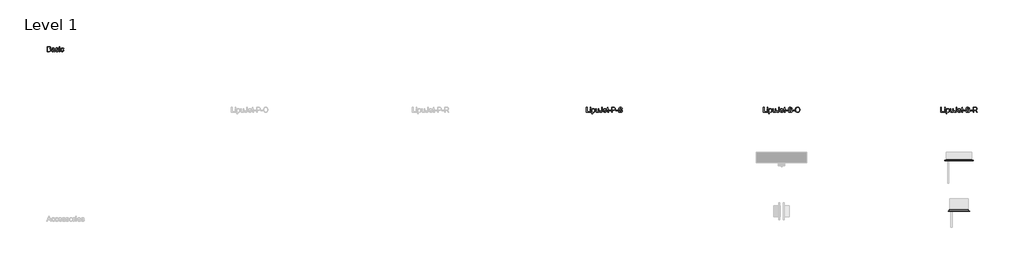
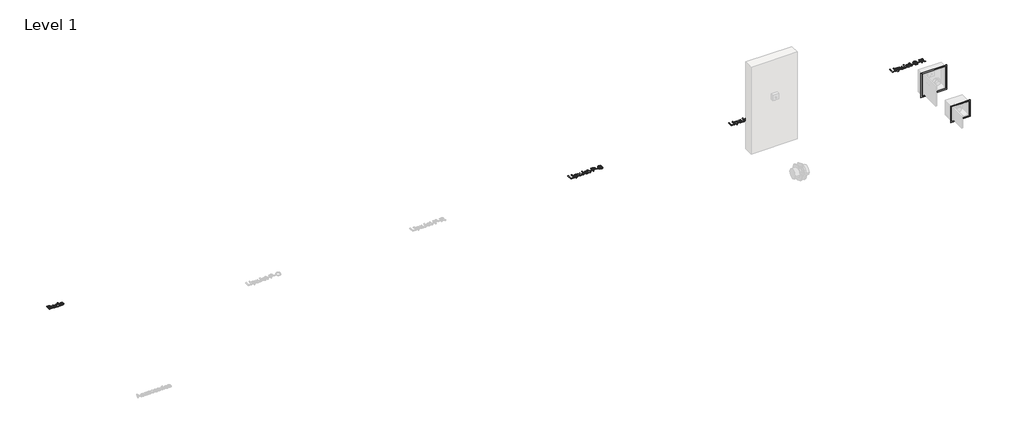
# One storey, part 2 of 3: 4 proxies, 2 furniture elements.
"""IFC4 building model written with IfcOpenShell, lengths in millimetres."""

import ifcopenshell
import ifcopenshell.guid

model = None  # the IFC model being written
_history = None  # IfcOwnerHistory: only IFC2X3 demands one
_inside = {}  # id of a spatial element -> (the spatial element, [elements in it])
_under = {}  # id of a project, library or spatial element -> (it, [spatial elements below it])
_declared = {}  # id of a project -> (the project, [libraries it declares])
_typed = {}  # id of a type object -> (the type object, [elements of that type])
_made_of = {}  # id of a material, layer set ... -> (it, [elements and type objects made of it])


def new_model(schema):
    """Start an empty IFC model of exactly this schema.

    Asked for "IFC4X3", IfcOpenShell would pick the latest addendum, in which some entities
    have other attributes; the version numbers below select the first issue.
    IFC2X3 requires an IfcOwnerHistory on every rooted entity: one is made here for all.
    """
    global model, _history
    if schema == "IFC4X3":
        model = ifcopenshell.file(schema_version=(4, 3, 0, 0))
    else:
        model = ifcopenshell.file(schema=schema)
    _inside.clear()
    _under.clear()
    _declared.clear()
    _typed.clear()
    _made_of.clear()
    _history = None
    if model.schema == "IFC2X3":
        org = make("IfcOrganization", Name="unknown")
        user = make(
            "IfcPersonAndOrganization",
            ThePerson=make("IfcPerson", FamilyName="unknown"),
            TheOrganization=org,
        )
        app = make(
            "IfcApplication",
            ApplicationDeveloper=org,
            Version="unknown",
            ApplicationFullName="unknown",
            ApplicationIdentifier="unknown",
        )
        _history = make(
            "IfcOwnerHistory",
            OwningUser=user,
            OwningApplication=app,
            ChangeAction="ADDED",
            CreationDate=0,
        )
    return model


def make(cls, **values):
    """One entity of the class cls with the attributes given. An attribute that is None is left unset."""
    return model.create_entity(
        cls, **{name: value for name, value in values.items() if value is not None}
    )


def rooted(cls, **values):
    """An entity with a GlobalId (a new one), such as an element, a storey or a relation."""
    return make(cls, GlobalId=ifcopenshell.guid.new(), OwnerHistory=_history, **values)


def si_unit(unit_type, name, prefix=None):
    """IfcSIUnit, for example si_unit("LENGTHUNIT", "METRE", prefix="MILLI")."""
    return make("IfcSIUnit", UnitType=unit_type, Prefix=prefix, Name=name)


def assignment(units):
    """IfcUnitAssignment: the units of a project."""
    return None if units is None else make("IfcUnitAssignment", Units=units)


def point(xyz):
    """IfcCartesianPoint."""
    return None if xyz is None else make("IfcCartesianPoint", Coordinates=xyz)


def direction(xyz):
    """IfcDirection."""
    return None if xyz is None else make("IfcDirection", DirectionRatios=xyz)


def frame(location, z_axis=None, x_axis=None):
    """IfcAxis2Placement3D, a coordinate frame: its origin and axes. An axis left out is left unset."""
    return make(
        "IfcAxis2Placement3D",
        Location=point(location),
        Axis=direction(z_axis),
        RefDirection=direction(x_axis),
    )


def origin():
    """The frame at (0, 0, 0) with its axes left unset."""
    return frame((0.0, 0.0, 0.0))


def origin_with_axes():
    """The frame at (0, 0, 0) with the z axis (0, 0, 1) and the x axis (1, 0, 0) written out."""
    return frame((0.0, 0.0, 0.0), z_axis=(0.0, 0.0, 1.0), x_axis=(1.0, 0.0, 0.0))


def place(relative_to, where):
    """IfcLocalPlacement: puts the frame where relative to a parent placement (None: the world)."""
    return make(
        "IfcLocalPlacement", PlacementRelTo=relative_to, RelativePlacement=where
    )


def context(
    kind, dimensions, precision=None, world=None, true_north=None, identifier=None
):
    """IfcGeometricRepresentationContext, for example the 3D "Model" context."""
    return make(
        "IfcGeometricRepresentationContext",
        ContextIdentifier=identifier,
        ContextType=kind,
        CoordinateSpaceDimension=dimensions,
        Precision=precision,
        WorldCoordinateSystem=world,
        TrueNorth=true_north,
    )


def project(units=None, contexts=None):
    """IfcProject with its units and contexts."""
    return rooted(
        "IfcProject",
        Name="project",
        RepresentationContexts=contexts,
        UnitsInContext=assignment(units),
    )


def spatial(cls, under=None, at=None, **own):
    """A site, building, storey or space (cls), placed at a placement, below another one or the project."""
    s = rooted(cls, ObjectPlacement=at, **own)
    if under is not None:
        _under.setdefault(under.id(), (under, []))[1].append(s)
    return s


def polyline(points):
    """IfcPolyline through the points."""
    return make("IfcPolyline", Points=[point(p) for p in points])


def outline(outer, holes=None, kind="AREA"):
    """IfcArbitraryClosedProfileDef: a profile drawn as a closed curve; with holes, ...WithVoids."""
    if holes is None:
        return make("IfcArbitraryClosedProfileDef", ProfileType=kind, OuterCurve=outer)
    return make(
        "IfcArbitraryProfileDefWithVoids",
        ProfileType=kind,
        OuterCurve=outer,
        InnerCurves=holes,
    )


def extrude(swept, where, along, depth):
    """IfcExtrudedAreaSolid: the profile swept, set in the frame where, extruded along a direction by depth."""
    return make(
        "IfcExtrudedAreaSolid",
        SweptArea=swept,
        Position=where,
        ExtrudedDirection=direction(along),
        Depth=depth,
    )


def faces_of(points, faces, orient=None, outer=None):
    """IfcFace entities. A face is a list of loops; a loop is a list of indices into points, from 0.

    orient and outer hold one flag for each loop. By default every Orientation is true, the
    first loop of a face is its IfcFaceOuterBound and the others are IfcFaceBound.
    """
    made = []
    for i, loops in enumerate(faces):
        bounds = []
        for j, loop in enumerate(loops):
            is_outer = j == 0 if outer is None else outer[i][j]
            bounds.append(
                make(
                    "IfcFaceOuterBound" if is_outer else "IfcFaceBound",
                    Bound=make("IfcPolyLoop", Polygon=[points[k] for k in loop]),
                    Orientation=True if orient is None else orient[i][j],
                )
            )
        made.append(make("IfcFace", Bounds=bounds))
    return made


def faceted_brep(points, faces, orient=None, outer=None, voids=None):
    """IfcFacetedBrep: a solid bounded by flat faces; with voids (closed shells), ...WithVoids."""
    shared = [point(p) for p in points]
    hull = make("IfcClosedShell", CfsFaces=faces_of(shared, faces, orient, outer))
    if voids is None:
        return make("IfcFacetedBrep", Outer=hull)
    return make(
        "IfcFacetedBrepWithVoids",
        Outer=hull,
        Voids=[
            make(cls, CfsFaces=faces_of(shared, fs, o, b)) for cls, fs, o, b in voids
        ],
    )


def shape(context_of_items, identifier, shape_type, items):
    """IfcShapeRepresentation: the items that make up one representation, for example the "Body"."""
    return make(
        "IfcShapeRepresentation",
        ContextOfItems=context_of_items,
        RepresentationIdentifier=identifier,
        RepresentationType=shape_type,
        Items=items,
    )


def source(mapping_origin, context_of_items, identifier, shape_type, items):
    """IfcRepresentationMap: a shape defined once, which mapped items show again and again."""
    return make(
        "IfcRepresentationMap",
        MappingOrigin=mapping_origin,
        MappedRepresentation=shape(context_of_items, identifier, shape_type, items),
    )


def transform(
    local_origin,
    x_axis=None,
    y_axis=None,
    z_axis=None,
    scale=None,
    scale2=None,
    scale3=None,
    uniform=True,
):
    """IfcCartesianTransformationOperator3D, or its non-uniform kind. x_axis, y_axis, z_axis: its Axis1, 2, 3."""
    if uniform:
        return make(
            "IfcCartesianTransformationOperator3D",
            Axis1=direction(x_axis),
            Axis2=direction(y_axis),
            LocalOrigin=point(local_origin),
            Scale=scale,
            Axis3=direction(z_axis),
        )
    return make(
        "IfcCartesianTransformationOperator3DnonUniform",
        Axis1=direction(x_axis),
        Axis2=direction(y_axis),
        LocalOrigin=point(local_origin),
        Scale=scale,
        Axis3=direction(z_axis),
        Scale2=scale2,
        Scale3=scale3,
    )


def mapped(mapping_source, mapping_target):
    """IfcMappedItem: shows the shape of a source again, moved by a transform."""
    return make(
        "IfcMappedItem", MappingSource=mapping_source, MappingTarget=mapping_target
    )


def made_of(thing, what):
    """Note that an element or type object is made of a material, layer set ...; save() writes the relation."""
    if what is not None:
        _made_of.setdefault(what.id(), (what, []))[1].append(thing)
    return thing


def element(
    cls,
    number,
    at=None,
    inside=None,
    cuts=None,
    type_object=None,
    material=None,
    context=None,
    identifier="Body",
    shape_type=None,
    held_by="IfcProductDefinitionShape",
    body=None,
    shapes=None,
    **own,
):
    """One element of the class cls, such as IfcWall. Its Tag is "e" and its number.

    at: its placement. inside: the storey or other place that contains it. cuts: it is an
    opening in that element (IfcRelVoidsElement). A single representation is given by context,
    identifier, shape_type and body (its items); several are given by shapes. held_by: the class
    of the entity that holds the representations. save() writes the other relations.
    """
    e = rooted(cls, Tag="e%d" % number, ObjectPlacement=at, **own)
    if body is not None:
        shapes = [shape(context, identifier, shape_type, body)]
    if shapes is not None:
        e.Representation = make(held_by, Representations=shapes)
    if inside is not None:
        _inside.setdefault(inside.id(), (inside, []))[1].append(e)
    if cuts is not None:
        rooted(
            "IfcRelVoidsElement", RelatingBuildingElement=cuts, RelatedOpeningElement=e
        )
    if type_object is not None:
        _typed.setdefault(type_object.id(), (type_object, []))[1].append(e)
    return made_of(e, material)


def aggregate(whole, parts):
    """IfcRelAggregates: a whole, such as a stair, and the parts it consists of."""
    return rooted("IfcRelAggregates", RelatingObject=whole, RelatedObjects=parts)


def save(model, path):
    """Write the relations noted so far, then the file.

    IfcRelAggregates (storeys below a building ...), IfcRelContainedInSpatialStructure (elements
    in a storey), IfcRelDefinesByType, IfcRelAssociatesMaterial and IfcRelDeclares: one each for
    every whole, place, type object, material and project.
    """
    for whole, parts in _under.values():
        aggregate(whole, parts)
    for where, things in _inside.values():
        rooted(
            "IfcRelContainedInSpatialStructure",
            RelatedElements=things,
            RelatingStructure=where,
        )
    for kind, things in _typed.values():
        rooted("IfcRelDefinesByType", RelatedObjects=things, RelatingType=kind)
    for what, things in _made_of.values():
        rooted("IfcRelAssociatesMaterial", RelatedObjects=things, RelatingMaterial=what)
    for by, libraries in _declared.values():
        rooted("IfcRelDeclares", RelatingContext=by, RelatedDefinitions=libraries)
    model.write(path)


def std_dbb9a782(model_context):
    return source(origin(), model_context, "Body", "Brep", [
        faceted_brep([(254.5, 254.5, -15.0), (254.5, 254.5, -2.0), (254.5, -254.5, -2.0), (254.5, -254.5, -15.0), (252.5, 252.5, 0.0), (252.5, 252.5, -15.0), (252.5, -252.5, -15.0), (252.5, -252.5, 0.0), (282.5, 282.5, -2.0), (282.5, 282.5, 0.0), (282.5, -282.5, 0.0), (282.5, -282.5, -2.0), (-254.5, -254.5, -2.0), (-254.5, -254.5, -15.0), (-252.5, -252.5, -15.0), (-252.5, -252.5, 0.0), (-282.5, -282.5, 0.0), (-282.5, -282.5, -2.0), (-254.5, 254.5, -2.0), (-254.5, 254.5, -15.0), (-252.5, 252.5, -15.0), (-252.5, 252.5, 0.0), (-282.5, 282.5, 0.0), (-282.5, 282.5, -2.0)], [[[0, 1, 2, 3]], [[4, 5, 6, 7]], [[8, 9, 10, 11]], [[3, 2, 12, 13]], [[7, 6, 14, 15]], [[11, 10, 16, 17]], [[13, 12, 18, 19]], [[15, 14, 20, 21]], [[17, 16, 22, 23]], [[11, 17, 23, 8], [1, 18, 12, 2]], [[19, 18, 1, 0]], [[3, 13, 19, 0], [5, 20, 14, 6]], [[21, 20, 5, 4]], [[9, 22, 16, 10], [7, 15, 21, 4]], [[23, 22, 9, 8]]]),
    ])


def std_183a7562(model_context):
    return source(origin(), model_context, "Body", "Brep", [
        faceted_brep([(187.5, 167.5, -25.0), (187.5, 167.5, -2.0), (187.5, -167.5, -2.0), (187.5, -167.5, -25.0), (185.5, 165.5, 0.0), (185.5, 165.5, -25.0), (185.5, -165.5, -25.0), (185.5, -165.5, 0.0), (210.5, 190.5, -2.0), (210.5, 190.5, 0.0), (210.5, -190.5, 0.0), (210.5, -190.5, -2.0), (-187.5, -167.5, -2.0), (-187.5, -167.5, -25.0), (-185.5, -165.5, -25.0), (-185.5, -165.5, 0.0), (-210.5, -190.5, 0.0), (-210.5, -190.5, -2.0), (-187.5, 167.5, -2.0), (-187.5, 167.5, -25.0), (-185.5, 165.5, -25.0), (-185.5, 165.5, 0.0), (-210.5, 190.5, 0.0), (-210.5, 190.5, -2.0)], [[[0, 1, 2, 3]], [[4, 5, 6, 7]], [[8, 9, 10, 11]], [[3, 2, 12, 13]], [[7, 6, 14, 15]], [[11, 10, 16, 17]], [[13, 12, 18, 19]], [[15, 14, 20, 21]], [[17, 16, 22, 23]], [[11, 17, 23, 8], [1, 18, 12, 2]], [[19, 18, 1, 0]], [[3, 13, 19, 0], [5, 20, 14, 6]], [[21, 20, 5, 4]], [[9, 22, 16, 10], [7, 15, 21, 4]], [[23, 22, 9, 8]]]),
    ])


model = new_model("IFC4")

# Units and contexts
model_context = context("Model", 3, world=origin())
ifc_project = project(units=[si_unit("LENGTHUNIT", "METRE", prefix="MILLI")], contexts=[model_context])

# Site, building, storey
site = spatial("IfcSite", under=ifc_project)
building = spatial("IfcBuilding", under=site)
storey = spatial("IfcBuildingStorey", under=building, Name="Level 1", Elevation=0.0)

# Proxies
placement = place(None, origin())
element("IfcBuildingElementProxy", 1, Name="100mm ACO", ObjectType="100mm ACO", at=placement, inside=storey, context=model_context, shape_type="SweptSolid", body=[
    extrude(outline(polyline([(-2942.8989889, 902.806713), (-2928.4024611, 893.5763889), (-2923.5992204, 878.8483796), (-2927.7369519, 863.5416667), (-2939.4991046, 853.2841435), (-2960.1732944, 850.0), (-2997.6732944, 850.0), (-2997.6732944, 950.0), (-2961.3017667, 950.0), (-2946.2518535, 948.0034722), (-2936.4030398, 942.0138889), (-2930.9668419, 933.5865162), (-2929.1547759, 924.2766204), (-2932.5691278, 912.0659722), (-2942.8989889, 902.806713)]), holes=[polyline([(-2984.7103315, 861.1111111), (-2960.0575537, 861.1111111), (-2948.8560201, 862.2793692), (-2941.6981787, 865.7841435), (-2936.5621833, 878.7037037), (-2937.9293708, 886.0930266), (-2942.0309333, 891.6521991), (-2949.6987574, 895.135272), (-2961.7647296, 896.2962963), (-2984.7103315, 896.2962963), (-2984.7103315, 861.1111111)]), polyline([(-2984.7103315, 907.4074074), (-2963.9059333, 907.4074074), (-2953.1420444, 908.1886574), (-2945.4597528, 912.3408565), (-2942.1177389, 922.8009259), (-2945.488688, 933.7818287), (-2953.5326694, 938.1076389), (-2965.5263037, 938.8888889), (-2984.7103315, 938.8888889), (-2984.7103315, 907.4074074)])]), origin_with_axes(), (0.0, 0.0, 1.0), 10.0),
    extrude(outline(polyline([(-2843.9695907, 850.0), (-2856.9325537, 850.0), (-2860.6362574, 858.7384259), (-2873.1290236, 850.7957176), (-2886.5911185, 848.1481481), (-2896.5773743, 849.5949074), (-2904.1981787, 853.9351852), (-2909.0267377, 860.6481481), (-2910.6362574, 869.212963), (-2909.0592898, 877.520978), (-2904.328387, 884.2158565), (-2895.6984681, 889.1095197), (-2882.4244519, 892.0138889), (-2871.0818593, 893.75), (-2860.6362574, 896.2962963), (-2860.969012, 904.3258102), (-2862.9076694, 909.2013889), (-2868.0726, 913.2667824), (-2877.6501463, 914.8148148), (-2889.7305861, 911.6753472), (-2895.8214426, 900.0), (-2908.7844056, 901.5914352), (-2905.2289947, 911.400463), (-2898.5558176, 918.431713), (-2888.7721081, 922.6634838), (-2875.8851, 924.0740741), (-2856.6287343, 920.2112269), (-2849.0766509, 910.8940972), (-2847.6732944, 896.8460648), (-2847.6732944, 880.3240741), (-2847.1235259, 860.0694444), (-2843.9695907, 850.0)]), holes=[polyline([(-2860.6362574, 882.4074074), (-2860.6362574, 887.037037), (-2883.9146139, 881.712963), (-2894.2336243, 877.6548032), (-2897.6732944, 869.4155093), (-2893.9695907, 860.7928241), (-2883.2925074, 857.4074074), (-2867.4794287, 863.0787037), (-2862.3470502, 870.7465278), (-2860.6362574, 882.4074074)])]), origin_with_axes(), (0.0, 0.0, 1.0), 10.0),
    extrude(outline(polyline([(-2788.4140352, 901.8518519), (-2793.2028083, 911.5740741), (-2804.2705167, 914.8148148), (-2815.5841741, 912.037037), (-2819.8955167, 903.9641204), (-2817.0454009, 896.8171296), (-2803.6050074, 892.9398148), (-2785.8822065, 888.7731481), (-2776.8399611, 882.4508102), (-2773.5992204, 871.1226852), (-2775.6102157, 862.1925637), (-2781.6432019, 854.7887731), (-2791.0399032, 849.8083044), (-2803.1420444, 848.1481481), (-2815.6167262, 849.5442708), (-2825.031512, 853.7326389), (-2831.3936359, 860.7060185), (-2834.7103315, 870.4571759), (-2821.7473685, 872.2222222), (-2816.1484102, 861.0966435), (-2803.1420444, 857.4074074), (-2790.8445907, 861.2413194), (-2786.5621833, 870.5729167), (-2788.4863731, 876.5480324), (-2793.2896139, 879.9189815), (-2806.8746833, 882.8125), (-2827.8092898, 890.625), (-2832.8584796, 903.2118056), (-2830.9885433, 911.4981192), (-2825.3787343, 918.1857639), (-2816.6077562, 922.6019965), (-2805.254313, 924.0740741), (-2793.322166, 922.7864583), (-2784.3775769, 918.9236111), (-2778.4205456, 912.4927662), (-2775.4510722, 903.5011574), (-2788.4140352, 901.8518519)])), origin_with_axes(), (0.0, 0.0, 1.0), 10.0),
    extrude(outline(polyline([(-2747.6732944, 937.037037), (-2760.6362574, 937.037037), (-2760.6362574, 950.0), (-2747.6732944, 950.0), (-2747.6732944, 937.037037)])), origin_with_axes(), (0.0, 0.0, 1.0), 10.0),
    extrude(outline(polyline([(-2747.6732944, 850.0), (-2760.6362574, 850.0), (-2760.6362574, 922.2222222), (-2747.6732944, 922.2222222), (-2747.6732944, 850.0)])), origin_with_axes(), (0.0, 0.0, 1.0), 10.0),
    extrude(outline(polyline([(-2668.0436648, 874.4502315), (-2672.0728894, 862.6446759), (-2679.2415815, 854.4849537), (-2688.5659449, 849.7323495), (-2699.0621833, 848.1481481), (-2713.3778662, 850.7378472), (-2724.0332481, 858.5069444), (-2730.6521718, 870.5512153), (-2732.8584796, 885.9664352), (-2727.8237574, 908.6516204), (-2715.2224843, 920.6163194), (-2699.3226, 924.0740741), (-2679.863688, 918.4172454), (-2673.327953, 911.433015), (-2669.8955167, 901.7939815), (-2682.8584796, 900.0), (-2688.7612574, 911.0966435), (-2699.1779241, 914.8148148), (-2708.1333639, 912.9304109), (-2714.629313, 907.2771991), (-2718.5789657, 898.2458044), (-2719.8955167, 886.2268519), (-2718.5753488, 873.9981192), (-2714.6148454, 864.916088), (-2708.165916, 859.2845775), (-2699.3804704, 857.4074074), (-2686.7791972, 862.037037), (-2681.0066278, 875.9259259), (-2668.0436648, 874.4502315)])), origin_with_axes(), (0.0, 0.0, 1.0), 10.0),
])
element("IfcBuildingElementProxy", 2, Name="100mm ACO", ObjectType="100mm ACO", at=placement, inside=storey, context=model_context, shape_type="SweptSolid", body=[
    extrude(outline(polyline([(7710.1851852, -350.0), (7647.2222222, -350.0), (7647.2222222, -250.0), (7660.1851852, -250.0), (7660.1851852, -338.8888889), (7710.1851852, -338.8888889), (7710.1851852, -350.0)])), origin_with_axes(), (0.0, 0.0, 1.0), 10.0),
    extrude(outline(polyline([(7736.1111111, -350.0), (7723.1481481, -350.0), (7723.1481481, -277.7777778), (7736.1111111, -277.7777778), (7736.1111111, -350.0)])), origin_with_axes(), (0.0, 0.0, 1.0), 10.0),
    extrude(outline(polyline([(7736.1111111, -262.962963), (7723.1481481, -262.962963), (7723.1481481, -250.0), (7736.1111111, -250.0), (7736.1111111, -262.962963)])), origin_with_axes(), (0.0, 0.0, 1.0), 10.0),
    extrude(outline(polyline([(7767.7228009, -286.4872685), (7776.1791088, -278.5662616), (7787.8472222, -275.9259259), (7800.1736111, -278.515625), (7809.6064815, -286.2847222), (7815.5960648, -298.2132523), (7817.5925926, -313.28125), (7815.3356481, -329.1702836), (7808.5648148, -341.4207176), (7798.509838, -349.2440683), (7786.400463, -351.8518519), (7776.0271991, -349.7251157), (7767.9398148, -343.3449074), (7767.5925926, -377.7777778), (7754.6296296, -377.7777778), (7754.6296296, -277.7777778), (7767.5925926, -277.7777778), (7767.7228009, -286.4872685)]), holes=[polyline([(7784.9826389, -342.5925926), (7792.755353, -340.766059), (7799.0596065, -335.2864583), (7803.2371238, -326.1899595), (7804.6296296, -313.5127315), (7803.2877604, -301.4359086), (7799.2621528, -292.5202546), (7793.145978, -287.0189525), (7785.5324074, -285.1851852), (7777.6511863, -287.2287326), (7771.3107639, -293.359375), (7767.1332465, -302.7452257), (7765.7407407, -314.5543981), (7767.0753762, -326.66739), (7771.0792824, -335.4600694), (7777.2243924, -340.8094618), (7784.9826389, -342.5925926)])]), origin_with_axes(), (0.0, 0.0, 1.0), 10.0),
    extrude(outline(polyline([(7891.6666667, -350.0), (7880.5555556, -350.0), (7880.5555556, -339.4965278), (7870.3125, -348.7630208), (7857.349537, -351.8518519), (7843.2291667, -348.3362269), (7834.5775463, -338.6574074), (7832.4074074, -322.65625), (7832.4074074, -277.7777778), (7845.3703704, -277.7777778), (7845.3703704, -318.75), (7846.2673611, -332.8414352), (7850.9548611, -339.84375), (7859.9826389, -342.5925926), (7872.728588, -337.6736111), (7877.2099248, -330.1215278), (7878.7037037, -317.3032407), (7878.7037037, -277.7777778), (7891.6666667, -277.7777778), (7891.6666667, -350.0)])), origin_with_axes(), (0.0, 0.0, 1.0), 10.0),
    extrude(outline(polyline([(7960.1851852, -318.1134259), (7958.3116319, -333.8143808), (7952.6909722, -344.1695602), (7943.7282986, -349.9312789), (7931.8287037, -351.8518519), (7919.9291088, -349.9891493), (7911.4293981, -344.4010417), (7906.3295718, -335.0730613), (7904.6296296, -321.9907407), (7917.5925926, -320.3703704), (7921.4554398, -335.6481481), (7932.5231481, -340.7407407), (7942.4623843, -337.5), (7946.4699074, -330.0202546), (7947.2222222, -319.4444444), (7947.2222222, -250.0), (7960.1851852, -250.0), (7960.1851852, -318.1134259)])), origin_with_axes(), (0.0, 0.0, 1.0), 10.0),
    extrude(outline(polyline([(8041.6666667, -316.6666667), (7987.962963, -316.6666667), (7990.0354456, -327.7922454), (7994.7482639, -335.9375), (8001.5299479, -340.9288194), (8009.8090278, -342.5925926), (8021.484375, -338.9033565), (8028.7037037, -327.7777778), (8041.6666667, -329.2824074), (8037.2902199, -338.9033565), (8030.3530093, -346.0069444), (8021.1082176, -350.390625), (8009.8090278, -351.8518519), (7995.2220775, -349.3453414), (7984.2158565, -341.8258102), (7977.3039641, -329.9660012), (7975.0, -314.4386574), (7977.2207755, -298.900463), (7983.8831019, -286.6030093), (7994.5818866, -278.5951968), (8008.912037, -275.9259259), (8024.1319444, -279.3836806), (8036.5596065, -291.1603009), (8040.3899016, -301.6963252), (8041.6666667, -316.6666667)]), holes=[polyline([(8028.7037037, -307.4074074), (8026.6203704, -297.2511574), (8021.875, -290.3935185), (8008.59375, -285.1851852), (8000.7378472, -286.7332176), (7994.4155093, -291.3773148), (7987.962963, -307.4074074), (8028.7037037, -307.4074074)])]), origin_with_axes(), (0.0, 0.0, 1.0), 10.0),
    extrude(outline(polyline([(8084.2592593, -351.0127315), (8075.1736111, -351.8518519), (8063.5850694, -348.9728009), (8059.1435185, -341.6666667), (8058.3333333, -329.3402778), (8058.3333333, -287.037037), (8049.0740741, -287.037037), (8049.0740741, -277.7777778), (8058.3333333, -277.7777778), (8058.3333333, -259.4328704), (8071.2962963, -251.8518519), (8071.2962963, -277.7777778), (8082.4074074, -277.7777778), (8082.4074074, -287.037037), (8071.2962963, -287.037037), (8071.2962963, -331.9444444), (8072.337963, -340.162037), (8077.6331019, -342.5925926), (8082.6678241, -342.5925926), (8084.2592593, -351.0127315)])), origin_with_axes(), (0.0, 0.0, 1.0), 10.0),
    extrude(outline(polyline([(8128.7037037, -316.6666667), (8089.8148148, -316.6666667), (8089.8148148, -307.4074074), (8128.7037037, -307.4074074), (8128.7037037, -316.6666667)])), origin_with_axes(), (0.0, 0.0, 1.0), 10.0),
    extrude(outline(polyline([(8143.5185185, -250.0), (8181.0763889, -250.0), (8196.3831019, -250.8825231), (8208.3043981, -255.46875), (8216.6232639, -265.5237269), (8219.4444444, -278.8194444), (8217.2200521, -291.2507234), (8210.546875, -300.9403935), (8198.969184, -307.1795428), (8182.03125, -309.2592593), (8156.4814815, -309.2592593), (8156.4814815, -350.0), (8143.5185185, -350.0), (8143.5185185, -250.0)]), holes=[polyline([(8156.4814815, -298.1481481), (8182.5520833, -298.1481481), (8200.4991319, -293.4100116), (8204.9858941, -287.4873409), (8206.4814815, -279.1956019), (8203.3709491, -268.2146991), (8195.7320602, -262.2829861), (8182.2627315, -261.1111111), (8156.4814815, -261.1111111), (8156.4814815, -298.1481481)])]), origin_with_axes(), (0.0, 0.0, 1.0), 10.0),
    extrude(outline(polyline([(8267.5925926, -316.6666667), (8228.7037037, -316.6666667), (8228.7037037, -307.4074074), (8267.5925926, -307.4074074), (8267.5925926, -316.6666667)])), origin_with_axes(), (0.0, 0.0, 1.0), 10.0),
    extrude(outline(polyline([(8339.8148148, -279.6296296), (8337.8038194, -270.7356771), (8333.3333333, -264.3663194), (8317.0138889, -259.2592593), (8301.3888889, -263.2378472), (8296.875, -268.1242766), (8295.3703704, -274.8263889), (8299.8408565, -284.8813657), (8318.0266204, -291.1747685), (8337.8616898, -296.6579861), (8351.0127315, -305.5844907), (8355.114294, -312.6663773), (8356.4814815, -321.8171296), (8353.9749711, -333.6552373), (8346.4554398, -343.3015046), (8334.906684, -349.714265), (8320.3125, -351.8518519), (8302.3292824, -349.4791667), (8289.525463, -342.3611111), (8281.712963, -331.4670139), (8278.7037037, -317.7662037), (8291.6666667, -316.6666667), (8294.2961516, -327.5426794), (8300.5063657, -334.9971065), (8309.3424479, -339.3048322), (8319.849537, -340.7407407), (8336.9791667, -336.009838), (8341.8836806, -330.4361979), (8343.5185185, -323.1770833), (8341.8294271, -315.8492477), (8336.7621528, -310.8217593), (8313.4837963, -303.3709491), (8299.2730035, -299.0306713), (8289.6846065, -293.1568287), (8284.2267072, -285.5287905), (8282.4074074, -275.9259259), (8284.6896701, -264.9305556), (8291.5364583, -256.0185185), (8302.3184317, -250.1157407), (8316.40625, -248.1481481), (8330.9678819, -250.1302083), (8342.3611111, -256.0763889), (8349.8697917, -265.6684028), (8352.7777778, -278.587963), (8339.8148148, -279.6296296)])), origin_with_axes(), (0.0, 0.0, 1.0), 10.0),
])
element("IfcBuildingElementProxy", 3, Name="100mm ACO", ObjectType="100mm ACO", at=placement, inside=storey, context=model_context, shape_type="SweptSolid", body=[
    extrude(outline(polyline([(11202.7777778, -350.0), (11139.8148148, -350.0), (11139.8148148, -250.0), (11152.7777778, -250.0), (11152.7777778, -338.8888889), (11202.7777778, -338.8888889), (11202.7777778, -350.0)])), origin_with_axes(), (0.0, 0.0, 1.0), 10.0),
    extrude(outline(polyline([(11228.7037037, -262.962963), (11215.7407407, -262.962963), (11215.7407407, -250.0), (11228.7037037, -250.0), (11228.7037037, -262.962963)])), origin_with_axes(), (0.0, 0.0, 1.0), 10.0),
    extrude(outline(polyline([(11228.7037037, -350.0), (11215.7407407, -350.0), (11215.7407407, -277.7777778), (11228.7037037, -277.7777778), (11228.7037037, -350.0)])), origin_with_axes(), (0.0, 0.0, 1.0), 10.0),
    extrude(outline(polyline([(11260.3153935, -286.4872685), (11268.7717014, -278.5662616), (11280.4398148, -275.9259259), (11292.7662037, -278.515625), (11302.1990741, -286.2847222), (11308.1886574, -298.2132523), (11310.1851852, -313.28125), (11307.9282407, -329.1702836), (11301.1574074, -341.4207176), (11291.1024306, -349.2440683), (11278.9930556, -351.8518519), (11268.6197917, -349.7251157), (11260.5324074, -343.3449074), (11260.1851852, -377.7777778), (11247.2222222, -377.7777778), (11247.2222222, -277.7777778), (11260.1851852, -277.7777778), (11260.3153935, -286.4872685)]), holes=[polyline([(11277.5752315, -342.5925926), (11285.3479456, -340.766059), (11291.6521991, -335.2864583), (11295.8297164, -326.1899595), (11297.2222222, -313.5127315), (11295.880353, -301.4359086), (11291.8547454, -292.5202546), (11285.7385706, -287.0189525), (11278.125, -285.1851852), (11270.2437789, -287.2287326), (11263.9033565, -293.359375), (11259.7258391, -302.7452257), (11258.3333333, -314.5543981), (11259.6679687, -326.66739), (11263.671875, -335.4600694), (11269.816985, -340.8094618), (11277.5752315, -342.5925926)])]), origin_with_axes(), (0.0, 0.0, 1.0), 10.0),
    extrude(outline(polyline([(11384.2592593, -350.0), (11373.1481481, -350.0), (11373.1481481, -339.4965278), (11362.9050926, -348.7630208), (11349.9421296, -351.8518519), (11335.8217593, -348.3362269), (11327.1701389, -338.6574074), (11325.0, -322.65625), (11325.0, -277.7777778), (11337.962963, -277.7777778), (11337.962963, -318.75), (11338.8599537, -332.8414352), (11343.5474537, -339.84375), (11352.5752315, -342.5925926), (11365.3211806, -337.6736111), (11369.8025174, -330.1215278), (11371.2962963, -317.3032407), (11371.2962963, -277.7777778), (11384.2592593, -277.7777778), (11384.2592593, -350.0)])), origin_with_axes(), (0.0, 0.0, 1.0), 10.0),
    extrude(outline(polyline([(11452.7777778, -318.1134259), (11450.9042245, -333.8143808), (11445.2835648, -344.1695602), (11436.3208912, -349.9312789), (11424.4212963, -351.8518519), (11412.5217014, -349.9891493), (11404.0219907, -344.4010417), (11398.9221644, -335.0730613), (11397.2222222, -321.9907407), (11410.1851852, -320.3703704), (11414.0480324, -335.6481481), (11425.1157407, -340.7407407), (11435.0549769, -337.5), (11439.0625, -330.0202546), (11439.8148148, -319.4444444), (11439.8148148, -250.0), (11452.7777778, -250.0), (11452.7777778, -318.1134259)])), origin_with_axes(), (0.0, 0.0, 1.0), 10.0),
    extrude(outline(polyline([(11534.2592593, -316.6666667), (11480.5555556, -316.6666667), (11482.6280382, -327.7922454), (11487.3408565, -335.9375), (11494.1225405, -340.9288194), (11502.4016204, -342.5925926), (11514.0769676, -338.9033565), (11521.2962963, -327.7777778), (11534.2592593, -329.2824074), (11529.8828125, -338.9033565), (11522.9456019, -346.0069444), (11513.7008102, -350.390625), (11502.4016204, -351.8518519), (11487.8146701, -349.3453414), (11476.8084491, -341.8258102), (11469.8965567, -329.9660012), (11467.5925926, -314.4386574), (11469.8133681, -298.900463), (11476.4756944, -286.6030093), (11487.1744792, -278.5951968), (11501.5046296, -275.9259259), (11516.724537, -279.3836806), (11529.1521991, -291.1603009), (11532.9824942, -301.6963252), (11534.2592593, -316.6666667)]), holes=[polyline([(11521.2962963, -307.4074074), (11519.212963, -297.2511574), (11514.4675926, -290.3935185), (11501.1863426, -285.1851852), (11493.3304398, -286.7332176), (11487.0081019, -291.3773148), (11480.5555556, -307.4074074), (11521.2962963, -307.4074074)])]), origin_with_axes(), (0.0, 0.0, 1.0), 10.0),
    extrude(outline(polyline([(11576.8518519, -351.0127315), (11567.7662037, -351.8518519), (11556.177662, -348.9728009), (11551.7361111, -341.6666667), (11550.9259259, -329.3402778), (11550.9259259, -287.037037), (11541.6666667, -287.037037), (11541.6666667, -277.7777778), (11550.9259259, -277.7777778), (11550.9259259, -259.4328704), (11563.8888889, -251.8518519), (11563.8888889, -277.7777778), (11575.0, -277.7777778), (11575.0, -287.037037), (11563.8888889, -287.037037), (11563.8888889, -331.9444444), (11564.9305556, -340.162037), (11570.2256944, -342.5925926), (11575.2604167, -342.5925926), (11576.8518519, -351.0127315)])), origin_with_axes(), (0.0, 0.0, 1.0), 10.0),
    extrude(outline(polyline([(11621.2962963, -316.6666667), (11582.4074074, -316.6666667), (11582.4074074, -307.4074074), (11621.2962963, -307.4074074), (11621.2962963, -316.6666667)])), origin_with_axes(), (0.0, 0.0, 1.0), 10.0),
    extrude(outline(polyline([(11693.5185185, -279.6296296), (11691.5075231, -270.7356771), (11687.037037, -264.3663194), (11670.7175926, -259.2592593), (11655.0925926, -263.2378472), (11650.5787037, -268.1242766), (11649.0740741, -274.8263889), (11653.5445602, -284.8813657), (11671.7303241, -291.1747685), (11691.5653935, -296.6579861), (11704.7164352, -305.5844907), (11708.8179977, -312.6663773), (11710.1851852, -321.8171296), (11707.6786748, -333.6552373), (11700.1591435, -343.3015046), (11688.6103877, -349.714265), (11674.0162037, -351.8518519), (11656.0329861, -349.4791667), (11643.2291667, -342.3611111), (11635.4166667, -331.4670139), (11632.4074074, -317.7662037), (11645.3703704, -316.6666667), (11647.9998553, -327.5426794), (11654.2100694, -334.9971065), (11663.0461516, -339.3048322), (11673.5532407, -340.7407407), (11690.6828704, -336.009838), (11695.5873843, -330.4361979), (11697.2222222, -323.1770833), (11695.5331308, -315.8492477), (11690.4658565, -310.8217593), (11667.1875, -303.3709491), (11652.9767072, -299.0306713), (11643.3883102, -293.1568287), (11637.9304109, -285.5287905), (11636.1111111, -275.9259259), (11638.3933738, -264.9305556), (11645.240162, -256.0185185), (11656.0221354, -250.1157407), (11670.1099537, -248.1481481), (11684.6715856, -250.1302083), (11696.0648148, -256.0763889), (11703.5734954, -265.6684028), (11706.4814815, -278.587963), (11693.5185185, -279.6296296)])), origin_with_axes(), (0.0, 0.0, 1.0), 10.0),
    extrude(outline(polyline([(11760.1851852, -316.6666667), (11721.2962963, -316.6666667), (11721.2962963, -307.4074074), (11760.1851852, -307.4074074), (11760.1851852, -316.6666667)])), origin_with_axes(), (0.0, 0.0, 1.0), 10.0),
    extrude(outline(polyline([(11817.6793981, -248.1481481), (11836.1689815, -251.7216435), (11850.9548611, -262.4421296), (11860.6553819, -279.0147569), (11863.8888889, -300.1446759), (11860.6372975, -321.1841725), (11850.8825231, -337.6591435), (11836.078559, -348.3036748), (11817.6793981, -351.8518519), (11798.8064236, -348.1734664), (11784.0277778, -337.1383102), (11774.4791667, -320.808015), (11771.2962963, -301.244213), (11774.5225694, -279.1630498), (11784.2013889, -262.3408565), (11799.0234375, -251.6963252), (11817.6793981, -248.1481481)]), holes=[polyline([(11817.5636574, -340.7407407), (11831.0040509, -338.0570023), (11841.6377315, -330.005787), (11848.5749421, -317.1730324), (11850.9259259, -300.1446759), (11848.5713252, -282.7365451), (11841.5075231, -269.8640046), (11830.8774595, -261.9104456), (11817.8240741, -259.2592593), (11804.4777199, -261.8561921), (11793.7210648, -269.6469907), (11786.6247106, -282.8052662), (11784.2592593, -301.5046296), (11786.5740741, -317.3864294), (11793.5185185, -329.9045139), (11804.1594329, -338.031684), (11817.5636574, -340.7407407)])]), origin_with_axes(), (0.0, 0.0, 1.0), 10.0),
])
element("IfcBuildingElementProxy", 4, Name="100mm ACO", ObjectType="100mm ACO", at=placement, inside=storey, context=model_context, shape_type="SweptSolid", body=[
    extrude(outline(polyline([(14706.4814815, -350.0), (14643.5185185, -350.0), (14643.5185185, -250.0), (14656.4814815, -250.0), (14656.4814815, -338.8888889), (14706.4814815, -338.8888889), (14706.4814815, -350.0)])), origin_with_axes(), (0.0, 0.0, 1.0), 10.0),
    extrude(outline(polyline([(14732.4074074, -262.962963), (14719.4444444, -262.962963), (14719.4444444, -250.0), (14732.4074074, -250.0), (14732.4074074, -262.962963)])), origin_with_axes(), (0.0, 0.0, 1.0), 10.0),
    extrude(outline(polyline([(14732.4074074, -350.0), (14719.4444444, -350.0), (14719.4444444, -277.7777778), (14732.4074074, -277.7777778), (14732.4074074, -350.0)])), origin_with_axes(), (0.0, 0.0, 1.0), 10.0),
    extrude(outline(polyline([(14764.0190972, -286.4872685), (14772.4754051, -278.5662616), (14784.1435185, -275.9259259), (14796.4699074, -278.515625), (14805.9027778, -286.2847222), (14811.8923611, -298.2132523), (14813.8888889, -313.28125), (14811.6319444, -329.1702836), (14804.8611111, -341.4207176), (14794.8061343, -349.2440683), (14782.6967593, -351.8518519), (14772.3234954, -349.7251157), (14764.2361111, -343.3449074), (14763.8888889, -377.7777778), (14750.9259259, -377.7777778), (14750.9259259, -277.7777778), (14763.8888889, -277.7777778), (14764.0190972, -286.4872685)]), holes=[polyline([(14781.2789352, -342.5925926), (14789.0516493, -340.766059), (14795.3559028, -335.2864583), (14799.5334201, -326.1899595), (14800.9259259, -313.5127315), (14799.5840567, -301.4359086), (14795.5584491, -292.5202546), (14789.4422743, -287.0189525), (14781.8287037, -285.1851852), (14773.9474826, -287.2287326), (14767.6070602, -293.359375), (14763.4295428, -302.7452257), (14762.037037, -314.5543981), (14763.3716725, -326.66739), (14767.3755787, -335.4600694), (14773.5206887, -340.8094618), (14781.2789352, -342.5925926)])]), origin_with_axes(), (0.0, 0.0, 1.0), 10.0),
    extrude(outline(polyline([(14887.962963, -350.0), (14876.8518519, -350.0), (14876.8518519, -339.4965278), (14866.6087963, -348.7630208), (14853.6458333, -351.8518519), (14839.525463, -348.3362269), (14830.8738426, -338.6574074), (14828.7037037, -322.65625), (14828.7037037, -277.7777778), (14841.6666667, -277.7777778), (14841.6666667, -318.75), (14842.5636574, -332.8414352), (14847.2511574, -339.84375), (14856.2789352, -342.5925926), (14869.0248843, -337.6736111), (14873.5062211, -330.1215278), (14875.0, -317.3032407), (14875.0, -277.7777778), (14887.962963, -277.7777778), (14887.962963, -350.0)])), origin_with_axes(), (0.0, 0.0, 1.0), 10.0),
    extrude(outline(polyline([(14956.4814815, -318.1134259), (14954.6079282, -333.8143808), (14948.9872685, -344.1695602), (14940.0245949, -349.9312789), (14928.125, -351.8518519), (14916.2254051, -349.9891493), (14907.7256944, -344.4010417), (14902.6258681, -335.0730613), (14900.9259259, -321.9907407), (14913.8888889, -320.3703704), (14917.7517361, -335.6481481), (14928.8194444, -340.7407407), (14938.7586806, -337.5), (14942.7662037, -330.0202546), (14943.5185185, -319.4444444), (14943.5185185, -250.0), (14956.4814815, -250.0), (14956.4814815, -318.1134259)])), origin_with_axes(), (0.0, 0.0, 1.0), 10.0),
    extrude(outline(polyline([(15037.962963, -316.6666667), (14984.2592593, -316.6666667), (14986.3317419, -327.7922454), (14991.0445602, -335.9375), (14997.8262442, -340.9288194), (15006.1053241, -342.5925926), (15017.7806713, -338.9033565), (15025.0, -327.7777778), (15037.962963, -329.2824074), (15033.5865162, -338.9033565), (15026.6493056, -346.0069444), (15017.4045139, -350.390625), (15006.1053241, -351.8518519), (14991.5183738, -349.3453414), (14980.5121528, -341.8258102), (14973.6002604, -329.9660012), (14971.2962963, -314.4386574), (14973.5170718, -298.900463), (14980.1793981, -286.6030093), (14990.8781829, -278.5951968), (15005.2083333, -275.9259259), (15020.4282407, -279.3836806), (15032.8559028, -291.1603009), (15036.6861979, -301.6963252), (15037.962963, -316.6666667)]), holes=[polyline([(15025.0, -307.4074074), (15022.9166667, -297.2511574), (15018.1712963, -290.3935185), (15004.8900463, -285.1851852), (14997.0341435, -286.7332176), (14990.7118056, -291.3773148), (14984.2592593, -307.4074074), (15025.0, -307.4074074)])]), origin_with_axes(), (0.0, 0.0, 1.0), 10.0),
    extrude(outline(polyline([(15080.5555556, -351.0127315), (15071.4699074, -351.8518519), (15059.8813657, -348.9728009), (15055.4398148, -341.6666667), (15054.6296296, -329.3402778), (15054.6296296, -287.037037), (15045.3703704, -287.037037), (15045.3703704, -277.7777778), (15054.6296296, -277.7777778), (15054.6296296, -259.4328704), (15067.5925926, -251.8518519), (15067.5925926, -277.7777778), (15078.7037037, -277.7777778), (15078.7037037, -287.037037), (15067.5925926, -287.037037), (15067.5925926, -331.9444444), (15068.6342593, -340.162037), (15073.9293981, -342.5925926), (15078.9641204, -342.5925926), (15080.5555556, -351.0127315)])), origin_with_axes(), (0.0, 0.0, 1.0), 10.0),
    extrude(outline(polyline([(15125.0, -316.6666667), (15086.1111111, -316.6666667), (15086.1111111, -307.4074074), (15125.0, -307.4074074), (15125.0, -316.6666667)])), origin_with_axes(), (0.0, 0.0, 1.0), 10.0),
    extrude(outline(polyline([(15197.2222222, -279.6296296), (15195.2112269, -270.7356771), (15190.7407407, -264.3663194), (15174.4212963, -259.2592593), (15158.7962963, -263.2378472), (15154.2824074, -268.1242766), (15152.7777778, -274.8263889), (15157.2482639, -284.8813657), (15175.4340278, -291.1747685), (15195.2690972, -296.6579861), (15208.4201389, -305.5844907), (15212.5217014, -312.6663773), (15213.8888889, -321.8171296), (15211.3823785, -333.6552373), (15203.8628472, -343.3015046), (15192.3140914, -349.714265), (15177.7199074, -351.8518519), (15159.7366898, -349.4791667), (15146.9328704, -342.3611111), (15139.1203704, -331.4670139), (15136.1111111, -317.7662037), (15149.0740741, -316.6666667), (15151.703559, -327.5426794), (15157.9137731, -334.9971065), (15166.7498553, -339.3048322), (15177.2569444, -340.7407407), (15194.3865741, -336.009838), (15199.291088, -330.4361979), (15200.9259259, -323.1770833), (15199.2368345, -315.8492477), (15194.1695602, -310.8217593), (15170.8912037, -303.3709491), (15156.6804109, -299.0306713), (15147.0920139, -293.1568287), (15141.6341146, -285.5287905), (15139.8148148, -275.9259259), (15142.0970775, -264.9305556), (15148.9438657, -256.0185185), (15159.7258391, -250.1157407), (15173.8136574, -248.1481481), (15188.3752894, -250.1302083), (15199.7685185, -256.0763889), (15207.2771991, -265.6684028), (15210.1851852, -278.587963), (15197.2222222, -279.6296296)])), origin_with_axes(), (0.0, 0.0, 1.0), 10.0),
    extrude(outline(polyline([(15263.8888889, -316.6666667), (15225.0, -316.6666667), (15225.0, -307.4074074), (15263.8888889, -307.4074074), (15263.8888889, -316.6666667)])), origin_with_axes(), (0.0, 0.0, 1.0), 10.0),
    extrude(outline(polyline([(15366.2037037, -350.0), (15351.2152778, -350.0), (15332.4508102, -320.1388889), (15324.681713, -311.009838), (15316.9560185, -306.4959491), (15307.3784722, -305.5555556), (15291.6666667, -305.5555556), (15291.6666667, -350.0), (15278.7037037, -350.0), (15278.7037037, -250.0), (15322.8298611, -250.0), (15338.0063657, -251.1429398), (15348.7413194, -255.9461806), (15355.8449074, -265.1765046), (15358.3333333, -276.9097222), (15356.5176505, -286.9610822), (15351.0706019, -294.8350694), (15342.2019676, -300.3797743), (15330.1215278, -303.443287), (15339.7786458, -310.9302662), (15348.8425926, -322.5983796), (15366.2037037, -350.0)]), holes=[polyline([(15291.6666667, -294.4444444), (15320.4282407, -294.4444444), (15334.2158565, -292.96875), (15342.3321759, -287.2251157), (15345.3703704, -277.6331019), (15340.3211806, -265.9288194), (15333.6335359, -262.3155382), (15323.6689815, -261.1111111), (15291.6666667, -261.1111111), (15291.6666667, -294.4444444)])]), origin_with_axes(), (0.0, 0.0, 1.0), 10.0),
])

# Furniture
std_shape = std_dbb9a782(model_context)
element("IfcFurniture", 5, ObjectType="ZZZ_do not use_GM_ST_WPB_flushframe_ACO : std", at=placement, inside=storey, context=model_context, shape_type="MappedRepresentation", body=[
    mapped(std_shape, transform((15000.0, -1300.0, 250.0), x_axis=(1.0, 0.0, 0.0), y_axis=(0.0, 0.0, 1.0), z_axis=(0.0, -1.0, 0.0))),
])
std_2_shape = std_183a7562(model_context)
element("IfcFurniture", 6, ObjectType="ZZZ_do not use_GM_ST_WPB_flushframe_ACO : std", at=placement, inside=storey, context=model_context, shape_type="MappedRepresentation", body=[
    mapped(std_2_shape, transform((15000.0, -2300.0, 165.0), x_axis=(1.0, 0.0, 0.0), y_axis=(0.0, 0.0, 1.0), z_axis=(0.0, -1.0, 0.0))),
])

save(model, "model.ifc")
